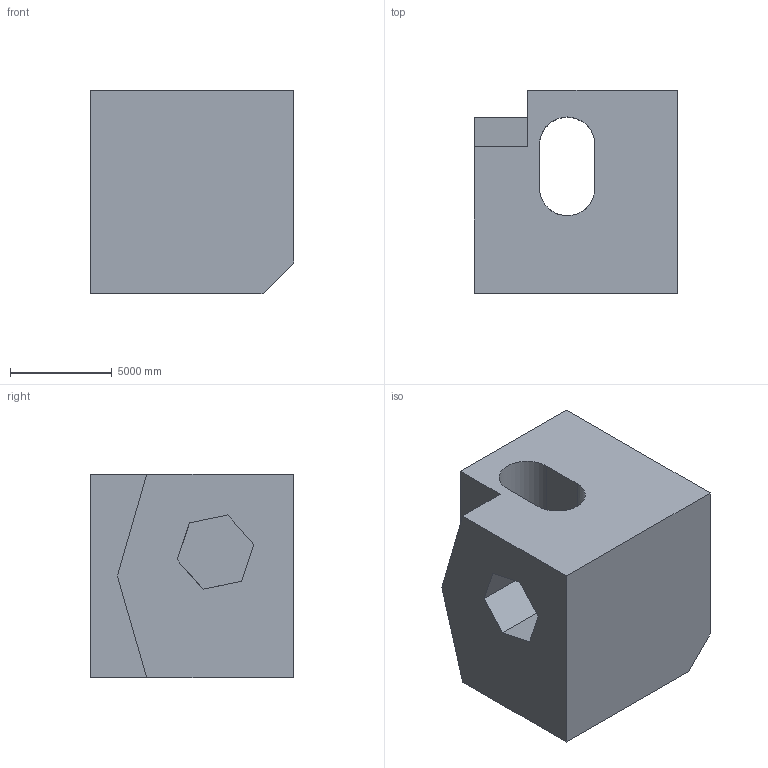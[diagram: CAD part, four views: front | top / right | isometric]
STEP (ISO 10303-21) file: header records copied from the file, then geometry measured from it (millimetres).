
FILE_DESCRIPTION (( 'STEP AP203' ), '1' );
FILE_NAME ('1303.STEP', '2022-08-18T13:39:11', ( 'user' ), ( '' ), 'SwSTEP 2.0', 'SolidWorks 2021', '' );
FILE_SCHEMA (( 'CONFIG_CONTROL_DESIGN' ));
Length unit declared in the file: centimetre
Products named in the file (1): 1303
Bounding box: 10000 x 10000 x 10000 mm (x, y, z)
Volume: 747005247846.7 mm3; surface area: 749358689.4 mm2
Topology: 1 solids, 1 shells, 24 faces, 69 edges, 46 vertices
Faces by surface type: plane 21, cylinder 3
Entity records: 862 total; most frequent: CARTESIAN_POINT 158, ORIENTED_EDGE 138, DIRECTION 117, EDGE_CURVE 69, VECTOR 59, LINE 59, VERTEX_POINT 46, AXIS2_PLACEMENT_3D 29
